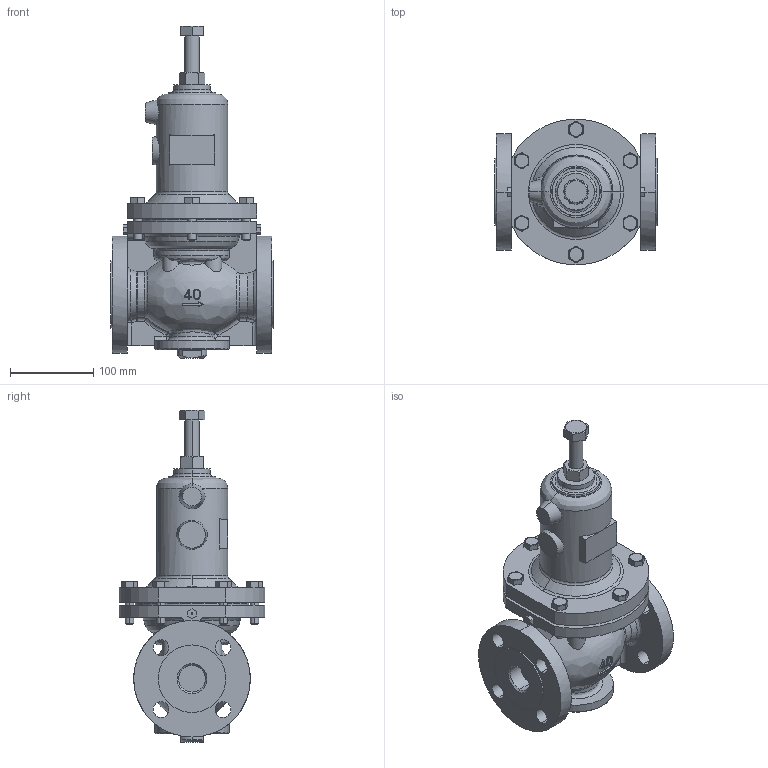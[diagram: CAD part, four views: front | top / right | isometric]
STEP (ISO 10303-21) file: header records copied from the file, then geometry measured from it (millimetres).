
FILE_DESCRIPTION( (''), '2;1');
FILE_NAME ('PC1276.13840.GD-200H 40A_12123.stp','2026-01-15T15:44:07',(''),(''),'spGate 20.6.3 (****-****-****-****)','','');
FILE_SCHEMA (('AUTOMOTIVE_DESIGN'));
Length unit declared in the file: millimetre
Products named in the file (4): Assembly; GD-200(40A)本体P; GD-200(3250)保護筒; CP_''_JIS B 1181 六角ナット 2種 上 ''_700
Assembly tree (3 placements, depth 2):
  Assembly
    GD-200(40A)本体P
    GD-200(3250)保護筒
    CP_''_JIS B 1181 六角ナット 2種 上 ''_700
Bounding box: 195 x 174.39 x 398.61 mm (x, y, z)
Volume: 3242729.7 mm3; surface area: 310668.6 mm2
Topology: 3 solids, 3 shells, 493 faces, 1237 edges, 781 vertices
Faces by surface type: plane 177, bspline 162, cylinder 143, sphere 11
Entity records: 28790 total; most frequent: CARTESIAN_POINT 8593, ORIENTED_EDGE 2458, DIRECTION 1811, COLOUR_RGB 1725, PRESENTATION_STYLE_ASSIGNMENT 1725, STYLED_ITEM 1725, EDGE_CURVE 1229, DRAUGHTING_PRE_DEFINED_CURVE_FONT 1229
